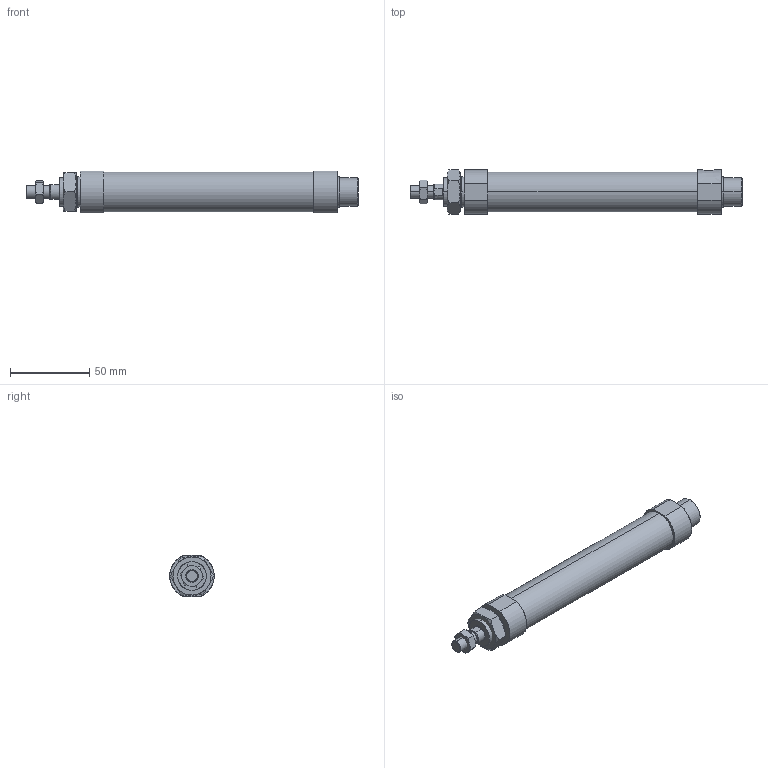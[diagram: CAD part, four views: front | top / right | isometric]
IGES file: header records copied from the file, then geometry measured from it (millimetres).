
Start section: SolidWorks IGES file using analytic representation for surfaces
Global section: file name: C:\Users\Toshiba\Desktop\J#1-20-50-N.IGS; native system: SolidWorks 2014; preprocessor: SolidWorks 2014; author: Toshiba; date: 160308.144437; units: millimetre
Bounding box: 209 x 28 x 26 mm (x, y, z)
Surface area: 18936.3 mm2 (no closed solid volume)
Topology: 0 solids, 0 shells, 89 faces, 1514 edges, 1514 vertices
Faces by surface type: bspline 59, revolution 30
